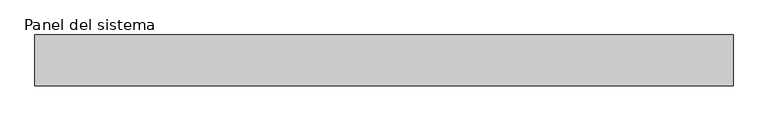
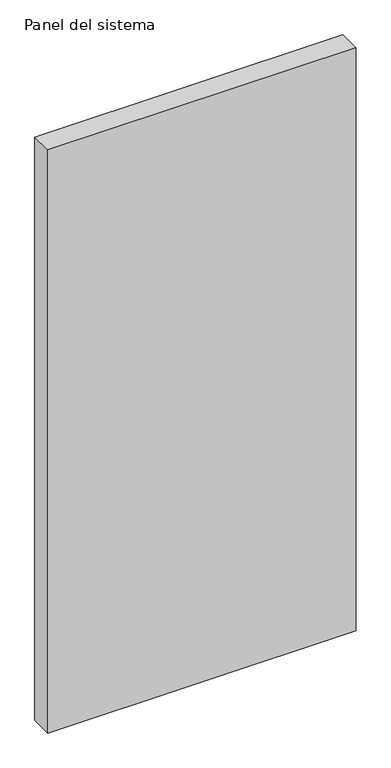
"""IFC4 building model written with IfcOpenShell, lengths in millimetres: plate geometry, Panel del sistema : Hiansa Panel - Fachada Panel SEMILISO HFM Vert - 80mm."""

from ifc_helpers import new_model, si_unit, origin, origin_with_axes, place, context, project, spatial, polyline, outline, extrude, source, transform, mapped, element, save


def panel_del_sistema_633de202(model_context):
    return source(origin(), model_context, "Body", "SweptSolid", [
        extrude(outline(polyline([(550.0000002, -80.0), (-550.0000002, -80.0), (-550.0000002, 0.0), (550.0000002, 0.0), (550.0000002, -80.0)])), origin_with_axes(), (0.0, 0.0, 1.0), 2200.0),
    ])


if __name__ == "__main__":
    model = new_model("IFC4")
    model_context = context("Model", 3, world=origin())
    ifc_project = project(units=[si_unit("LENGTHUNIT", "METRE", prefix="MILLI")], contexts=[model_context])
    site = spatial("IfcSite", under=ifc_project)
    building = spatial("IfcBuilding", under=site)
    placement = place(None, origin())
    panel_del_sistema_shape = panel_del_sistema_633de202(model_context)
    element("IfcPlate", 1, ObjectType="Panel del sistema : Hiansa Panel - Fachada Panel SEMILISO HFM Vert - 80mm", at=placement, inside=building, context=model_context, shape_type="MappedRepresentation", body=[
        mapped(panel_del_sistema_shape, transform((0.0, 0.0, 0.0), x_axis=(1.0, 0.0, 0.0), y_axis=(0.0, 1.0, 0.0), z_axis=(0.0, 0.0, 1.0))),
    ])
    save(model, "model.ifc")
